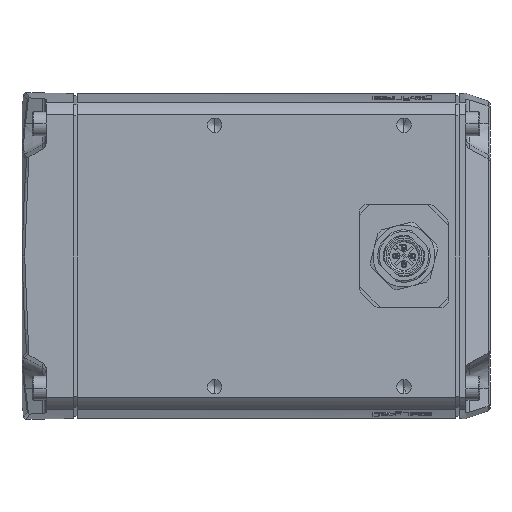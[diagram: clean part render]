
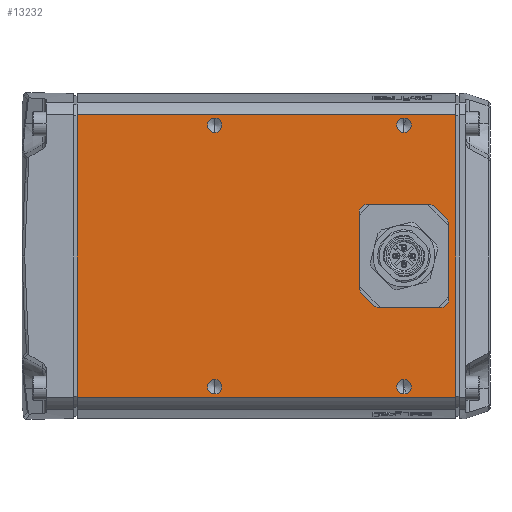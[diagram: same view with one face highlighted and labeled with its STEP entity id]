
A CAD part, front view. The second image highlights one B-rep face of the part: STEP entity #13232.
In plain terms, the highlighted planar face has unit normal (0, -1, 0).
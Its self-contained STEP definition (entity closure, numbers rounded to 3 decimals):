
#1354=DIRECTION('',(0.,0.,-1.));
#1355=VECTOR('',#1354,81.96);
#1356=CARTESIAN_POINT('',(141.5,-45.,40.98));
#1357=LINE('',#1356,#1355);
#1361=DIRECTION('',(1.,0.,0.));
#1362=VECTOR('',#1361,110.);
#1363=CARTESIAN_POINT('',(31.5,-45.,-40.98));
#1364=LINE('',#1363,#1362);
#1368=DIRECTION('',(-1.,0.,0.));
#1369=VECTOR('',#1368,110.);
#1370=CARTESIAN_POINT('',(141.5,-45.,40.98));
#1371=LINE('',#1370,#1369);
#1375=DIRECTION('',(1.,0.,0.));
#1376=VECTOR('',#1375,17.564);
#1377=CARTESIAN_POINT('',(119.486,-45.,-15.05));
#1378=LINE('',#1377,#1376);
#1382=CARTESIAN_POINT('',(137.05,-45.,-12.55));
#1383=DIRECTION('',(0.,-1.,0.));
#1384=DIRECTION('',(0.,0.,-1.));
#1385=AXIS2_PLACEMENT_3D('',#1382,#1383,#1384);
#1390=DIRECTION('',(0.,0.,1.));
#1391=VECTOR('',#1390,21.564);
#1392=CARTESIAN_POINT('',(139.55,-45.,-12.55));
#1393=LINE('',#1392,#1391);
#1397=CARTESIAN_POINT('',(137.05,-45.,9.014));
#1398=DIRECTION('',(0.,-1.,0.));
#1399=DIRECTION('',(1.,0.,0.));
#1400=AXIS2_PLACEMENT_3D('',#1397,#1398,#1399);
#1405=DIRECTION('',(-0.707,0.,0.707));
#1406=VECTOR('',#1405,5.);
#1407=CARTESIAN_POINT('',(138.818,-45.,10.782));
#1408=LINE('',#1407,#1406);
#1412=CARTESIAN_POINT('',(133.514,-45.,12.55));
#1413=DIRECTION('',(0.,-1.,0.));
#1414=DIRECTION('',(0.707,0.,0.707));
#1415=AXIS2_PLACEMENT_3D('',#1412,#1413,#1414);
#1420=DIRECTION('',(-1.,0.,0.));
#1421=VECTOR('',#1420,17.564);
#1422=CARTESIAN_POINT('',(133.514,-45.,15.05));
#1423=LINE('',#1422,#1421);
#1427=CARTESIAN_POINT('',(115.95,-45.,12.55));
#1428=DIRECTION('',(0.,-1.,0.));
#1429=DIRECTION('',(0.,0.,1.));
#1430=AXIS2_PLACEMENT_3D('',#1427,#1428,#1429);
#1435=DIRECTION('',(0.,0.,-1.));
#1436=VECTOR('',#1435,21.564);
#1437=CARTESIAN_POINT('',(113.45,-45.,12.55));
#1438=LINE('',#1437,#1436);
#1442=CARTESIAN_POINT('',(115.95,-45.,-9.014));
#1443=DIRECTION('',(0.,-1.,0.));
#1444=DIRECTION('',(-1.,0.,0.));
#1445=AXIS2_PLACEMENT_3D('',#1442,#1443,#1444);
#1450=DIRECTION('',(0.707,0.,-0.707));
#1451=VECTOR('',#1450,5.);
#1452=CARTESIAN_POINT('',(114.182,-45.,-10.782));
#1453=LINE('',#1452,#1451);
#1457=CARTESIAN_POINT('',(119.486,-45.,-12.55));
#1458=DIRECTION('',(0.,-1.,0.));
#1459=DIRECTION('',(-0.707,0.,-0.707));
#1460=AXIS2_PLACEMENT_3D('',#1457,#1458,#1459);
#1465=CARTESIAN_POINT('',(126.5,-45.,-38.));
#1466=DIRECTION('',(0.,-1.,0.));
#1467=DIRECTION('',(0.,0.,1.));
#1468=AXIS2_PLACEMENT_3D('',#1465,#1466,#1467);
#1473=CARTESIAN_POINT('',(126.5,-45.,-38.));
#1474=DIRECTION('',(0.,-1.,0.));
#1475=DIRECTION('',(0.,0.,-1.));
#1476=AXIS2_PLACEMENT_3D('',#1473,#1474,#1475);
#1481=CARTESIAN_POINT('',(71.5,-45.,-38.));
#1482=DIRECTION('',(0.,-1.,0.));
#1483=DIRECTION('',(0.,0.,1.));
#1484=AXIS2_PLACEMENT_3D('',#1481,#1482,#1483);
#1489=CARTESIAN_POINT('',(71.5,-45.,-38.));
#1490=DIRECTION('',(0.,-1.,0.));
#1491=DIRECTION('',(0.,0.,-1.));
#1492=AXIS2_PLACEMENT_3D('',#1489,#1490,#1491);
#1497=CARTESIAN_POINT('',(126.5,-45.,38.));
#1498=DIRECTION('',(0.,1.,0.));
#1499=DIRECTION('',(0.,0.,-1.));
#1500=AXIS2_PLACEMENT_3D('',#1497,#1498,#1499);
#1505=CARTESIAN_POINT('',(126.5,-45.,38.));
#1506=DIRECTION('',(0.,1.,0.));
#1507=DIRECTION('',(0.,0.,1.));
#1508=AXIS2_PLACEMENT_3D('',#1505,#1506,#1507);
#1513=CARTESIAN_POINT('',(71.5,-45.,38.));
#1514=DIRECTION('',(0.,1.,0.));
#1515=DIRECTION('',(0.,0.,-1.));
#1516=AXIS2_PLACEMENT_3D('',#1513,#1514,#1515);
#1521=CARTESIAN_POINT('',(71.5,-45.,38.));
#1522=DIRECTION('',(0.,1.,0.));
#1523=DIRECTION('',(0.,0.,1.));
#1524=AXIS2_PLACEMENT_3D('',#1521,#1522,#1523);
#2052=DIRECTION('',(0.,0.,-1.));
#2053=VECTOR('',#2052,81.96);
#2054=CARTESIAN_POINT('',(31.5,-45.,40.98));
#2055=LINE('',#2054,#2053);
#10539=CARTESIAN_POINT('',(31.5,-45.,40.98));
#10541=VERTEX_POINT('',#10539);
#10547=CARTESIAN_POINT('',(31.5,-45.,-40.98));
#10549=VERTEX_POINT('',#10547);
#10567=CARTESIAN_POINT('',(137.05,-45.,-15.05));
#10568=VERTEX_POINT('',#10567);
#10569=CARTESIAN_POINT('',(139.55,-45.,-12.55));
#10570=VERTEX_POINT('',#10569);
#10571=CARTESIAN_POINT('',(115.95,-45.,15.05));
#10572=VERTEX_POINT('',#10571);
#10573=CARTESIAN_POINT('',(113.45,-45.,12.55));
#10574=VERTEX_POINT('',#10573);
#10581=CARTESIAN_POINT('',(126.5,-45.,-35.9));
#10582=VERTEX_POINT('',#10581);
#10583=CARTESIAN_POINT('',(126.5,-45.,-40.1));
#10584=VERTEX_POINT('',#10583);
#10591=CARTESIAN_POINT('',(71.5,-45.,-35.9));
#10592=VERTEX_POINT('',#10591);
#10593=CARTESIAN_POINT('',(71.5,-45.,-40.1));
#10594=VERTEX_POINT('',#10593);
#10603=CARTESIAN_POINT('',(141.5,-45.,40.98));
#10604=CARTESIAN_POINT('',(141.5,-45.,-40.98));
#10605=VERTEX_POINT('',#10603);
#10606=VERTEX_POINT('',#10604);
#10611=CARTESIAN_POINT('',(119.486,-45.,-15.05));
#10612=VERTEX_POINT('',#10611);
#10613=CARTESIAN_POINT('',(139.55,-45.,9.014));
#10614=VERTEX_POINT('',#10613);
#10615=CARTESIAN_POINT('',(133.514,-45.,15.05));
#10616=VERTEX_POINT('',#10615);
#10617=CARTESIAN_POINT('',(113.45,-45.,-9.014));
#10618=VERTEX_POINT('',#10617);
#10625=CARTESIAN_POINT('',(126.5,-45.,35.9));
#10626=CARTESIAN_POINT('',(126.5,-45.,40.1));
#10627=VERTEX_POINT('',#10625);
#10628=VERTEX_POINT('',#10626);
#10635=CARTESIAN_POINT('',(71.5,-45.,35.9));
#10636=CARTESIAN_POINT('',(71.5,-45.,40.1));
#10637=VERTEX_POINT('',#10635);
#10638=VERTEX_POINT('',#10636);
#10647=CARTESIAN_POINT('',(114.182,-45.,-10.782));
#10648=VERTEX_POINT('',#10647);
#10649=CARTESIAN_POINT('',(117.718,-45.,-14.318));
#10650=VERTEX_POINT('',#10649);
#10651=CARTESIAN_POINT('',(138.818,-45.,10.782));
#10652=VERTEX_POINT('',#10651);
#10653=CARTESIAN_POINT('',(135.282,-45.,14.318));
#10654=VERTEX_POINT('',#10653);
#13168=CARTESIAN_POINT('',(31.5,-45.,44.));
#13169=DIRECTION('',(0.,-1.,0.));
#13170=DIRECTION('',(0.,0.,-1.));
#13171=AXIS2_PLACEMENT_3D('',#13168,#13169,#13170);
#13172=PLANE('',#13171);
#13174=ORIENTED_EDGE('',*,*,#13173,.T.);
#13176=ORIENTED_EDGE('',*,*,#13175,.F.);
#13178=ORIENTED_EDGE('',*,*,#13177,.F.);
#13180=ORIENTED_EDGE('',*,*,#13179,.F.);
#13181=EDGE_LOOP('',(#13174,#13176,#13178,#13180));
#13182=FACE_OUTER_BOUND('',#13181,.F.);
#13184=ORIENTED_EDGE('',*,*,#13183,.T.);
#13186=ORIENTED_EDGE('',*,*,#13185,.T.);
#13188=ORIENTED_EDGE('',*,*,#13187,.T.);
#13190=ORIENTED_EDGE('',*,*,#13189,.T.);
#13192=ORIENTED_EDGE('',*,*,#13191,.T.);
#13194=ORIENTED_EDGE('',*,*,#13193,.T.);
#13196=ORIENTED_EDGE('',*,*,#13195,.T.);
#13198=ORIENTED_EDGE('',*,*,#13197,.T.);
#13200=ORIENTED_EDGE('',*,*,#13199,.T.);
#13201=ORIENTED_EDGE('',*,*,#13151,.T.);
#13203=ORIENTED_EDGE('',*,*,#13202,.T.);
#13205=ORIENTED_EDGE('',*,*,#13204,.T.);
#13206=EDGE_LOOP('',(#13184,#13186,#13188,#13190,#13192,#13194,#13196,#13198,
#13200,#13201,#13203,#13205));
#13207=FACE_BOUND('',#13206,.F.);
#13209=ORIENTED_EDGE('',*,*,#13208,.T.);
#13211=ORIENTED_EDGE('',*,*,#13210,.T.);
#13212=EDGE_LOOP('',(#13209,#13211));
#13213=FACE_BOUND('',#13212,.F.);
#13215=ORIENTED_EDGE('',*,*,#13214,.T.);
#13217=ORIENTED_EDGE('',*,*,#13216,.T.);
#13218=EDGE_LOOP('',(#13215,#13217));
#13219=FACE_BOUND('',#13218,.F.);
#13221=ORIENTED_EDGE('',*,*,#13220,.F.);
#13223=ORIENTED_EDGE('',*,*,#13222,.F.);
#13224=EDGE_LOOP('',(#13221,#13223));
#13225=FACE_BOUND('',#13224,.F.);
#13227=ORIENTED_EDGE('',*,*,#13226,.F.);
#13229=ORIENTED_EDGE('',*,*,#13228,.F.);
#13230=EDGE_LOOP('',(#13227,#13229));
#13231=FACE_BOUND('',#13230,.F.);
#1386=CIRCLE('',#1385,2.5);
#1401=CIRCLE('',#1400,2.5);
#1416=CIRCLE('',#1415,2.5);
#1431=CIRCLE('',#1430,2.5);
#1446=CIRCLE('',#1445,2.5);
#1461=CIRCLE('',#1460,2.5);
#1469=CIRCLE('',#1468,2.1);
#1477=CIRCLE('',#1476,2.1);
#1485=CIRCLE('',#1484,2.1);
#1493=CIRCLE('',#1492,2.1);
#1501=CIRCLE('',#1500,2.1);
#1509=CIRCLE('',#1508,2.1);
#1517=CIRCLE('',#1516,2.1);
#1525=CIRCLE('',#1524,2.1);
#13151=EDGE_CURVE('',#10618,#10648,#1446,.T.);
#13173=EDGE_CURVE('',#10605,#10606,#1357,.T.);
#13175=EDGE_CURVE('',#10549,#10606,#1364,.T.);
#13177=EDGE_CURVE('',#10541,#10549,#2055,.T.);
#13179=EDGE_CURVE('',#10605,#10541,#1371,.T.);
#13183=EDGE_CURVE('',#10612,#10568,#1378,.T.);
#13185=EDGE_CURVE('',#10568,#10570,#1386,.T.);
#13187=EDGE_CURVE('',#10570,#10614,#1393,.T.);
#13189=EDGE_CURVE('',#10614,#10652,#1401,.T.);
#13191=EDGE_CURVE('',#10652,#10654,#1408,.T.);
#13193=EDGE_CURVE('',#10654,#10616,#1416,.T.);
#13195=EDGE_CURVE('',#10616,#10572,#1423,.T.);
#13197=EDGE_CURVE('',#10572,#10574,#1431,.T.);
#13199=EDGE_CURVE('',#10574,#10618,#1438,.T.);
#13202=EDGE_CURVE('',#10648,#10650,#1453,.T.);
#13204=EDGE_CURVE('',#10650,#10612,#1461,.T.);
#13208=EDGE_CURVE('',#10582,#10584,#1469,.T.);
#13210=EDGE_CURVE('',#10584,#10582,#1477,.T.);
#13214=EDGE_CURVE('',#10592,#10594,#1485,.T.);
#13216=EDGE_CURVE('',#10594,#10592,#1493,.T.);
#13220=EDGE_CURVE('',#10627,#10628,#1501,.T.);
#13222=EDGE_CURVE('',#10628,#10627,#1509,.T.);
#13226=EDGE_CURVE('',#10637,#10638,#1517,.T.);
#13228=EDGE_CURVE('',#10638,#10637,#1525,.T.);
#13232=ADVANCED_FACE('',(#13182,#13207,#13213,#13219,#13225,#13231),#13172,.T.);
